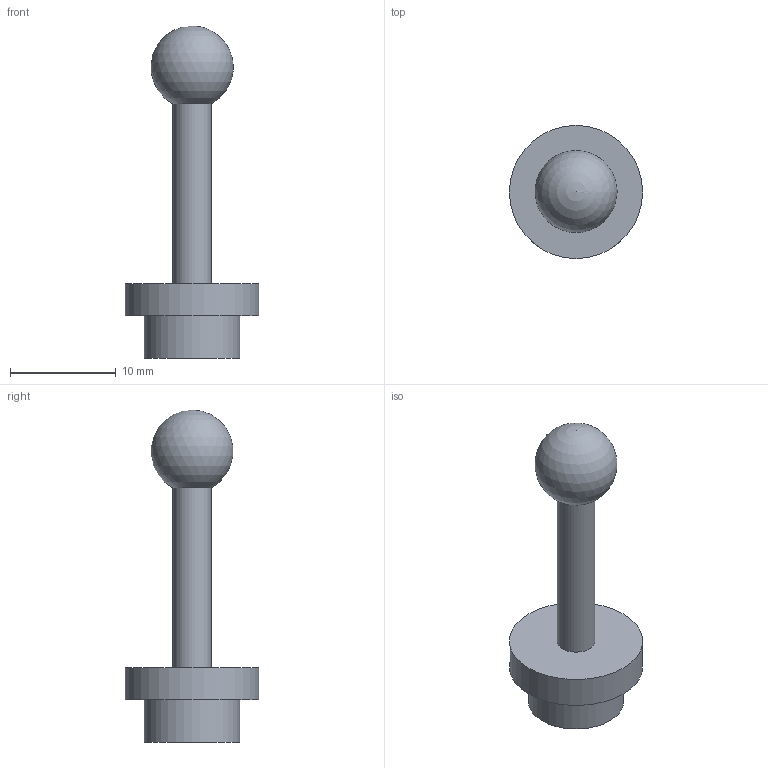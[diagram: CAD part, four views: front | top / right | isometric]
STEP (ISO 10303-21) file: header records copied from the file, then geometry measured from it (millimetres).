
FILE_DESCRIPTION(('FreeCAD Model'),'2;1');
FILE_NAME('Open CASCADE Shape Model','2026-11-08T23:31:29',('FreeCAD'),( 'FreeCAD'),'Open CASCADE STEP processor 7.8','FreeCAD','Unknown');
FILE_SCHEMA(('AUTOMOTIVE_DESIGN { 1 0 10303 214 1 1 1 1 }'));
Length unit declared in the file: millimetre
Products named in the file (1): Open CASCADE STEP translator 7.8 9
Bounding box: 12.6 x 12.6 x 31.4 mm (x, y, z)
Volume: 1048.2 mm3; surface area: 844.1 mm2
Topology: 1 solids, 1 shells, 7 faces, 11 edges, 7 vertices
Faces by surface type: cylinder 3, plane 3, sphere 1
Full cylindrical faces by diameter (mm): 3.6 x1, 9 x1, 12.6 x1
Entity records: 169 total; most frequent: DIRECTION 33, CARTESIAN_POINT 25, ORIENTED_EDGE 20, AXIS2_PLACEMENT_3D 15, EDGE_CURVE 10, FACE_BOUND 9, EDGE_LOOP 9, ADVANCED_FACE 7
